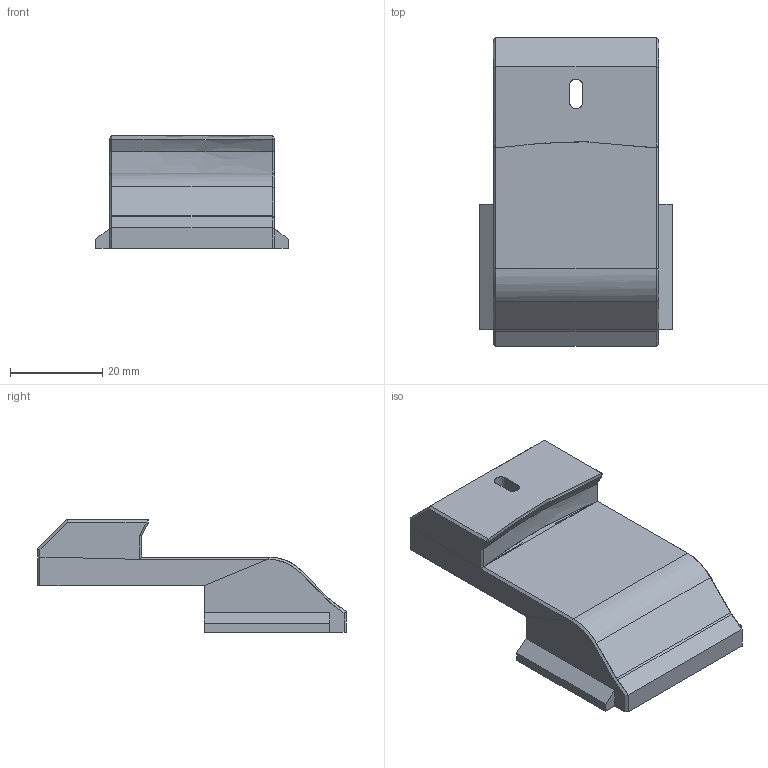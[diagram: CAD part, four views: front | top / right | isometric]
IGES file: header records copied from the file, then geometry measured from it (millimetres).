
Global section: file name: E:\M1337\M1337 Remodel\Metric\Belt Drum\IGES Files\Belt Drum Latch Metric.igs; native system: NX V2007; preprocessor: SIEMENS PLM Software NX 2027; date: 20260719.104822; units: millimetre
Bounding box: 41.66 x 66.8 x 24.37 mm (x, y, z)
Surface area: 8367.9 mm2 (no closed solid volume)
Topology: 0 solids, 0 shells, 57 faces, 407 edges, 571 vertices
Faces by surface type: bspline 57
